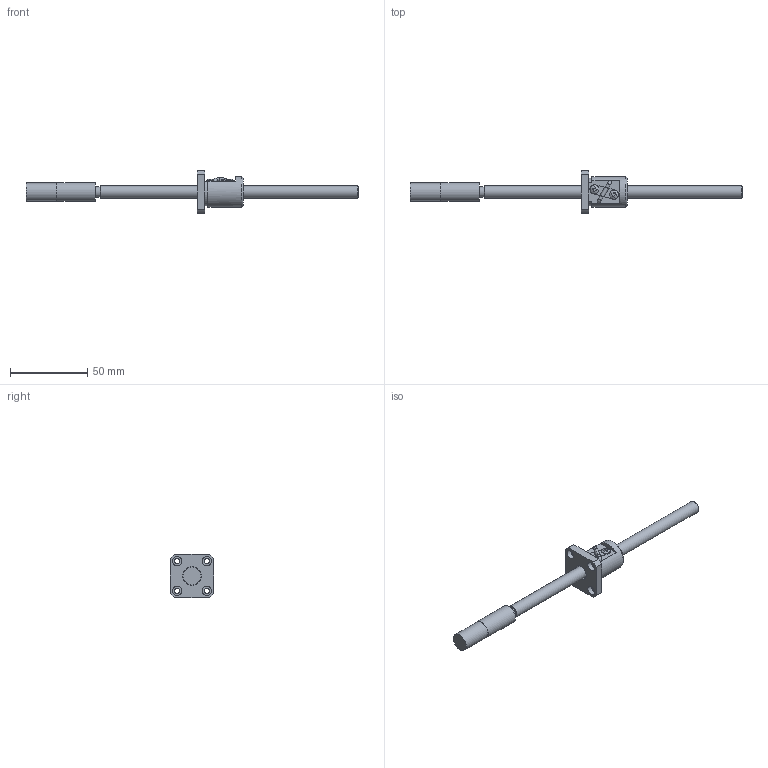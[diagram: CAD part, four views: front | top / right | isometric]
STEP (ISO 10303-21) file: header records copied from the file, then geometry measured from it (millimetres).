
FILE_DESCRIPTION((''),'2;1');
FILE_NAME('D:\製品 (図面)\カタログ用3D\ネジ関連\STEP形式\KBS(C)\KBS(C)0802-215.stp','2010-06-02T09:13:45',('Tsuchiya'),(''),'Autodesk Inventor 10','Autodesk Inventor 10','');
FILE_SCHEMA(('AUTOMOTIVE_DESIGN { 1 0 10303 214 1 1 1 1 }'));
Length unit declared in the file: millimetre
Products named in the file (3): KBS(C)0802-215; KBS(C)0802-2151; KBS(C)0802-2152
Assembly tree (2 placements, depth 2):
  KBS(C)0802-215
    KBS(C)0802-2151
    KBS(C)0802-2152
Bounding box: 215 x 28 x 28 mm (x, y, z)
Volume: 22406 mm3; surface area: 11054.7 mm2
Topology: 2 solids, 2 shells, 103 faces, 255 edges, 168 vertices
Faces by surface type: plane 42, cylinder 36, bspline 20, cone 3, torus 2
Full cylindrical faces by diameter (mm): 2 x1, 3.5 x4, 5.6 x1, 6 x4, 6.6 x1, 8 x2, 10 x2, 11.7 x1, 12 x1, 20 x1
Entity records: 3309 total; most frequent: CARTESIAN_POINT 930, ORIENTED_EDGE 452, DIRECTION 450, EDGE_CURVE 226, AXIS2_PLACEMENT_3D 168, VERTEX_POINT 164, EDGE_LOOP 156, VECTOR 114
